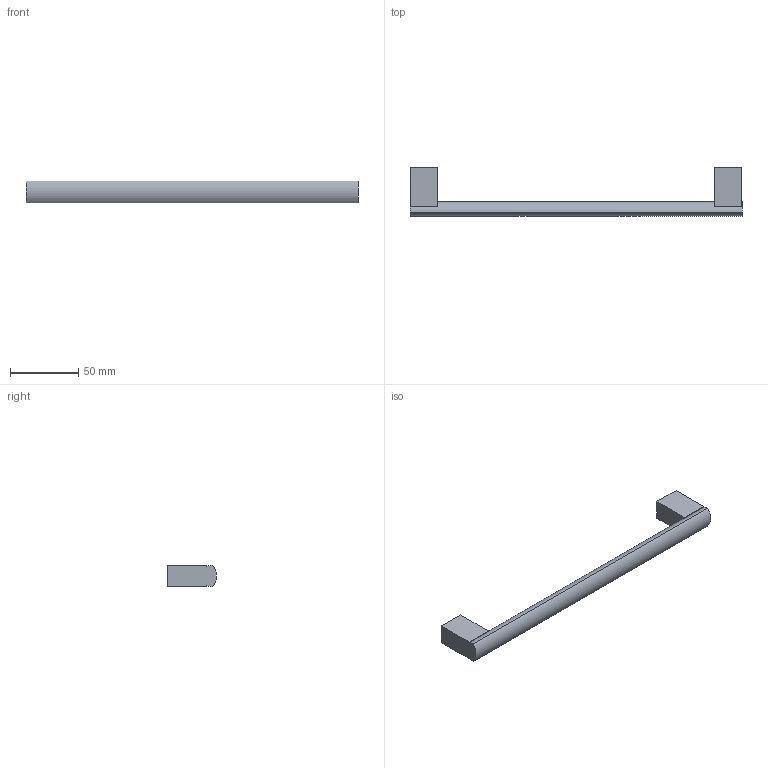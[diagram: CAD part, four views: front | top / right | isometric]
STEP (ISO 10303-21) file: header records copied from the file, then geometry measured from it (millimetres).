
FILE_DESCRIPTION( ( 'STEP AP214' ), '1' );
FILE_NAME( 'D:/Shahbaz D&D/Task/Check and correct handles with 3 drill sockets/Clivia/115356.stp', '2023-02-20T10:41:04', ( '' ), ( '' ), ' ', 'PARTsolutions', ' ' );
FILE_SCHEMA( ( 'AUTOMOTIVE_DESIGN { 1 0 10303 214 1 1 1 1 }' ) );
Length unit declared in the file: millimetre
Products named in the file (1): _115356
Bounding box: 244 x 35.96 x 16 mm (x, y, z)
Volume: 48179.7 mm3; surface area: 14738.9 mm2
Topology: 1 solids, 1 shells, 21 faces, 48 edges, 32 vertices
Faces by surface type: plane 17, cylinder 4
Full cylindrical faces by diameter (mm): 4 x2
Entity records: 768 total; most frequent: DIRECTION 102, CARTESIAN_POINT 100, ORIENTED_EDGE 92, EDGE_CURVE 46, AXIS2_PLACEMENT_3D 34, LINE 34, VECTOR 34, VERTEX_POINT 32
